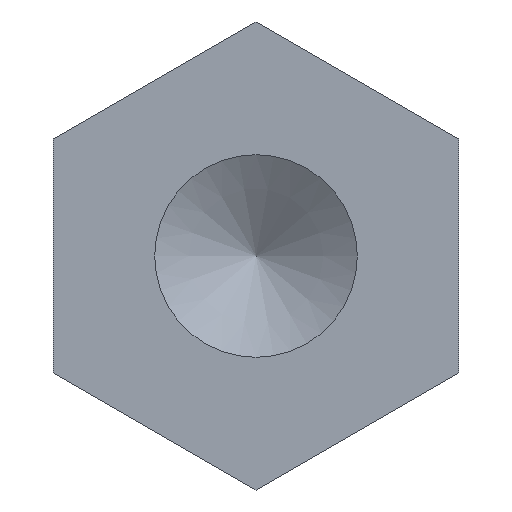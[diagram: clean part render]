
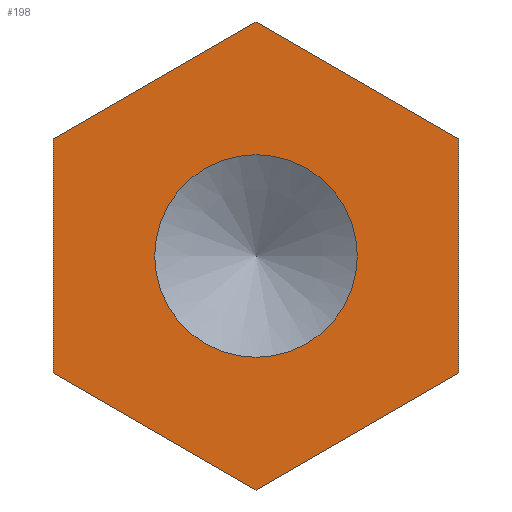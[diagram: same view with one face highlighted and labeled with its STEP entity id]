
A CAD part, front view. The second image highlights one B-rep face of the part: STEP entity #198.
In plain terms, the highlighted planar face has unit normal (0, -1, 0).
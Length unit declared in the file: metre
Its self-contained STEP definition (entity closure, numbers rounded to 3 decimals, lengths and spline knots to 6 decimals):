
#18=CIRCLE('',#297,0.00125);
#30=ORIENTED_EDGE('',*,*,#73,.F.);
#31=ORIENTED_EDGE('',*,*,#74,.F.);
#32=ORIENTED_EDGE('',*,*,#69,.F.);
#33=ORIENTED_EDGE('',*,*,#75,.F.);
#34=ORIENTED_EDGE('',*,*,#76,.F.);
#35=ORIENTED_EDGE('',*,*,#77,.F.);
#36=ORIENTED_EDGE('',*,*,#78,.T.);
#69=EDGE_CURVE('',#91,#88,#109,.T.);
#73=EDGE_CURVE('',#95,#92,#113,.T.);
#74=EDGE_CURVE('',#88,#95,#114,.T.);
#75=EDGE_CURVE('',#96,#91,#115,.T.);
#76=EDGE_CURVE('',#97,#96,#116,.T.);
#77=EDGE_CURVE('',#92,#97,#117,.T.);
#78=EDGE_CURVE('',#98,#98,#18,.T.);
#88=VERTEX_POINT('',#365);
#91=VERTEX_POINT('',#370);
#92=VERTEX_POINT('',#374);
#95=VERTEX_POINT('',#379);
#96=VERTEX_POINT('',#384);
#97=VERTEX_POINT('',#386);
#98=VERTEX_POINT('',#389);
#109=LINE('',#371,#127);
#113=LINE('',#380,#131);
#114=LINE('',#382,#132);
#115=LINE('',#383,#133);
#116=LINE('',#385,#134);
#117=LINE('',#387,#135);
#127=VECTOR('',#317,1.);
#131=VECTOR('',#323,1.);
#132=VECTOR('',#326,1.);
#133=VECTOR('',#327,1.);
#134=VECTOR('',#328,1.);
#135=VECTOR('',#329,1.);
#144=EDGE_LOOP('',(#30,#31,#32,#33,#34,#35));
#145=EDGE_LOOP('',(#36));
#160=FACE_BOUND('',#144,.T.);
#161=FACE_BOUND('',#145,.T.);
#178=PLANE('',#296);
#198=ADVANCED_FACE('',(#160,#161),#178,.F.);
#296=AXIS2_PLACEMENT_3D('',#381,#324,#325);
#297=AXIS2_PLACEMENT_3D('',#388,#330,#331);
#317=DIRECTION('',(0.866,0.,-0.5));
#323=DIRECTION('',(-0.866,0.,-0.5));
#324=DIRECTION('',(0.,1.,0.));
#325=DIRECTION('',(1.,0.,0.));
#326=DIRECTION('',(0.,0.,-1.));
#327=DIRECTION('',(0.866,0.,0.5));
#328=DIRECTION('',(0.,0.,1.));
#329=DIRECTION('',(-0.866,0.,0.5));
#330=DIRECTION('',(0.,1.,0.));
#331=DIRECTION('',(-1.,0.,0.));
#365=CARTESIAN_POINT('',(0.0025,0.,0.001443));
#370=CARTESIAN_POINT('',(0.,0.,0.002887));
#371=CARTESIAN_POINT('',(0.,0.,0.002887));
#374=CARTESIAN_POINT('',(0.,0.,-0.002887));
#379=CARTESIAN_POINT('',(0.0025,0.,-0.001443));
#380=CARTESIAN_POINT('',(0.0025,0.,-0.001443));
#381=CARTESIAN_POINT('',(0.,0.,0.));
#382=CARTESIAN_POINT('',(0.0025,0.,0.001443));
#383=CARTESIAN_POINT('',(-0.0025,0.,0.001443));
#384=CARTESIAN_POINT('',(-0.0025,0.,0.001443));
#385=CARTESIAN_POINT('',(-0.0025,0.,-0.001443));
#386=CARTESIAN_POINT('',(-0.0025,0.,-0.001443));
#387=CARTESIAN_POINT('',(0.,0.,-0.002887));
#388=CARTESIAN_POINT('',(0.,0.,0.));
#389=CARTESIAN_POINT('',(-0.00125,0.,0.));
